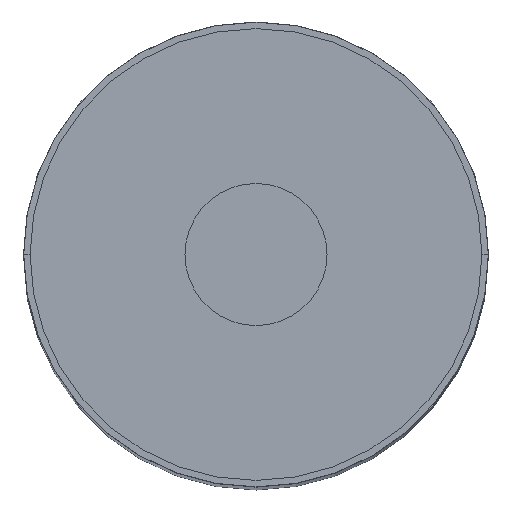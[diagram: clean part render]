
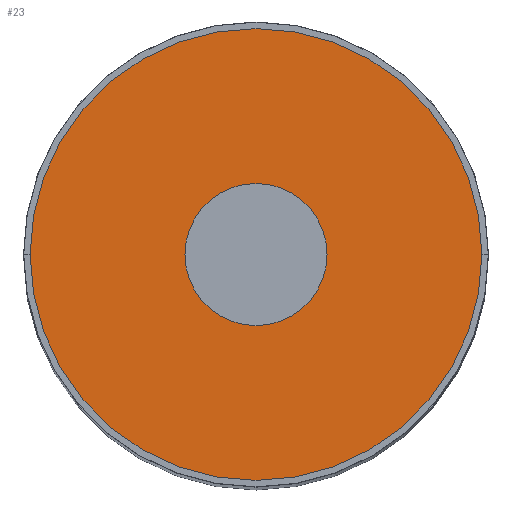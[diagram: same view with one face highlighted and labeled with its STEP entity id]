
A CAD part, top view. The second image highlights one B-rep face of the part: STEP entity #23.
In plain terms, the highlighted planar face has unit normal (0, 0, 1).
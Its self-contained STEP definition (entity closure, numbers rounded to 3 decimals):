
#23 = ADVANCED_FACE ( 'NONE', ( #139, #622 ), #828, .F. ) ;
#76 = DIRECTION ( 'NONE',  ( -1., 0., 0. ) ) ;
#80 = DIRECTION ( 'NONE',  ( -1., 0., 0. ) ) ;
#130 = DIRECTION ( 'NONE',  ( -1., 0., 0. ) ) ;
#138 = ORIENTED_EDGE ( 'NONE', *, *, #803, .T. ) ;
#139 = FACE_OUTER_BOUND ( 'NONE', #596, .T. ) ;
#140 = DIRECTION ( 'NONE',  ( 0., 0., -1. ) ) ;
#141 = CARTESIAN_POINT ( 'NONE',  ( 0., 0., 140.075 ) ) ;
#144 = DIRECTION ( 'NONE',  ( 0., 0., -1. ) ) ;
#145 = CARTESIAN_POINT ( 'NONE',  ( 0., 0., 140.075 ) ) ;
#172 = DIRECTION ( 'NONE',  ( -1., 0., 0. ) ) ;
#173 = AXIS2_PLACEMENT_3D ( 'NONE', #221, #215, #214 ) ;
#174 = DIRECTION ( 'NONE',  ( 0., 0., -1. ) ) ;
#176 = CARTESIAN_POINT ( 'NONE',  ( 0., 0., 140.075 ) ) ;
#191 = EDGE_LOOP ( 'NONE', ( #138, #532 ) ) ;
#214 = DIRECTION ( 'NONE',  ( -1., 0., 0. ) ) ;
#215 = DIRECTION ( 'NONE',  ( 0., 0., -1. ) ) ;
#221 = CARTESIAN_POINT ( 'NONE',  ( 0., 0., 140.075 ) ) ;
#244 = VERTEX_POINT ( 'NONE', #645 ) ;
#320 = CIRCLE ( 'NONE', #589, 17.488 ) ;
#326 = CARTESIAN_POINT ( 'NONE',  ( -5.5, 0., 140.075 ) ) ;
#331 = CARTESIAN_POINT ( 'NONE',  ( 17.488, 0., 140.075 ) ) ;
#352 = CIRCLE ( 'NONE', #567, 17.488 ) ;
#401 = CARTESIAN_POINT ( 'NONE',  ( 5.5, 0., 140.075 ) ) ;
#407 = ORIENTED_EDGE ( 'NONE', *, *, #778, .F. ) ;
#426 = CIRCLE ( 'NONE', #173, 5.5 ) ;
#477 = CIRCLE ( 'NONE', #598, 5.5 ) ;
#479 = VERTEX_POINT ( 'NONE', #401 ) ;
#532 = ORIENTED_EDGE ( 'NONE', *, *, #754, .T. ) ;
#567 = AXIS2_PLACEMENT_3D ( 'NONE', #176, #174, #172 ) ;
#589 = AXIS2_PLACEMENT_3D ( 'NONE', #145, #144, #80 ) ;
#590 = VERTEX_POINT ( 'NONE', #331 ) ;
#594 = VERTEX_POINT ( 'NONE', #326 ) ;
#596 = EDGE_LOOP ( 'NONE', ( #407, #619 ) ) ;
#598 = AXIS2_PLACEMENT_3D ( 'NONE', #141, #140, #76 ) ;
#619 = ORIENTED_EDGE ( 'NONE', *, *, #798, .F. ) ;
#622 = FACE_BOUND ( 'NONE', #191, .T. ) ;
#645 = CARTESIAN_POINT ( 'NONE',  ( -17.488, 0., 140.075 ) ) ;
#670 = AXIS2_PLACEMENT_3D ( 'NONE', #726, #693, #130 ) ;
#693 = DIRECTION ( 'NONE',  ( 0., 0., -1. ) ) ;
#726 = CARTESIAN_POINT ( 'NONE',  ( 0., 5.5, 140.075 ) ) ;
#754 = EDGE_CURVE ( 'NONE', #479, #594, #426, .T. ) ;
#778 = EDGE_CURVE ( 'NONE', #244, #590, #352, .T. ) ;
#798 = EDGE_CURVE ( 'NONE', #590, #244, #320, .T. ) ;
#803 = EDGE_CURVE ( 'NONE', #594, #479, #477, .T. ) ;
#828 = PLANE ( 'NONE',  #670 ) ;
